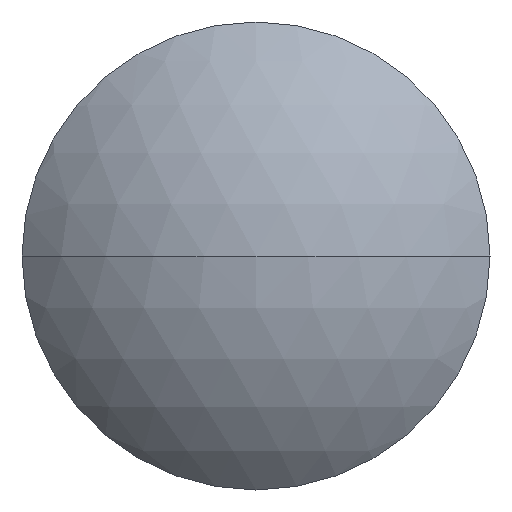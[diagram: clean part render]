
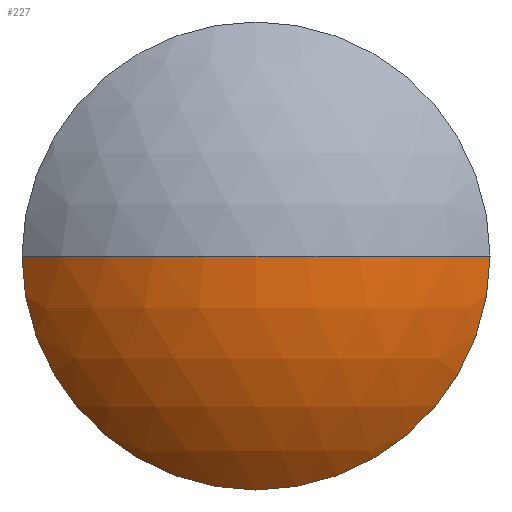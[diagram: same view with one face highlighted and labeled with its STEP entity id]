
A CAD part, left-side view. The second image highlights one B-rep face of the part: STEP entity #227.
In plain terms, the highlighted spherical face has radius 53.244 mm.
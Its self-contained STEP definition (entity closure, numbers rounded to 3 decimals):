
#2 = CARTESIAN_POINT ( 'NONE',  ( -3., -38.05, 0. ) ) ;
#3 = CIRCLE ( 'NONE', #76, 53.244 ) ;
#5 = DIRECTION ( 'NONE',  ( -1., 0., 0. ) ) ;
#13 = DIRECTION ( 'NONE',  ( 1., 0., 0. ) ) ;
#16 = ORIENTED_EDGE ( 'NONE', *, *, #139, .T. ) ;
#25 = CARTESIAN_POINT ( 'NONE',  ( -19., 0., 0. ) ) ;
#32 = CARTESIAN_POINT ( 'NONE',  ( -3., 0., 0. ) ) ;
#34 = CARTESIAN_POINT ( 'NONE',  ( 34.244, 0., 0. ) ) ;
#39 = FACE_OUTER_BOUND ( 'NONE', #203, .T. ) ;
#40 = DIRECTION ( 'NONE',  ( 0., 0., 1. ) ) ;
#41 = CARTESIAN_POINT ( 'NONE',  ( -3., 0., -38.05 ) ) ;
#64 = DIRECTION ( 'NONE',  ( 0., 1., 0. ) ) ;
#71 = ORIENTED_EDGE ( 'NONE', *, *, #108, .T. ) ;
#74 = DIRECTION ( 'NONE',  ( 0., 0., 1. ) ) ;
#76 = AXIS2_PLACEMENT_3D ( 'NONE', #197, #40, #13 ) ;
#79 = DIRECTION ( 'NONE',  ( 0., 1., 0. ) ) ;
#93 = VERTEX_POINT ( 'NONE', #25 ) ;
#96 = VERTEX_POINT ( 'NONE', #2 ) ;
#103 = CIRCLE ( 'NONE', #179, 38.05 ) ;
#107 = DIRECTION ( 'NONE',  ( 0., 0., 1. ) ) ;
#108 = EDGE_CURVE ( 'NONE', #297, #96, #205, .T. ) ;
#116 = EDGE_CURVE ( 'NONE', #96, #93, #239, .T. ) ;
#128 = DIRECTION ( 'NONE',  ( 0., 0., -1. ) ) ;
#139 = EDGE_CURVE ( 'NONE', #232, #297, #103, .T. ) ;
#141 = SPHERICAL_SURFACE ( 'NONE', #219, 53.244 ) ;
#168 = DIRECTION ( 'NONE',  ( 0., 0., -1. ) ) ;
#179 = AXIS2_PLACEMENT_3D ( 'NONE', #32, #5, #107 ) ;
#186 = AXIS2_PLACEMENT_3D ( 'NONE', #216, #279, #74 ) ;
#197 = CARTESIAN_POINT ( 'NONE',  ( 34.244, 0., 0. ) ) ;
#203 = EDGE_LOOP ( 'NONE', ( #16, #71, #295, #293 ) ) ;
#205 = CIRCLE ( 'NONE', #186, 38.05 ) ;
#208 = EDGE_CURVE ( 'NONE', #232, #93, #3, .T. ) ;
#216 = CARTESIAN_POINT ( 'NONE',  ( -3., 0., 0. ) ) ;
#219 = AXIS2_PLACEMENT_3D ( 'NONE', #34, #168, #64 ) ;
#227 = ADVANCED_FACE ( 'NONE', ( #39 ), #141, .T. ) ;
#232 = VERTEX_POINT ( 'NONE', #288 ) ;
#239 = CIRCLE ( 'NONE', #320, 53.244 ) ;
#279 = DIRECTION ( 'NONE',  ( -1., 0., 0. ) ) ;
#288 = CARTESIAN_POINT ( 'NONE',  ( -3., 38.05, 0. ) ) ;
#293 = ORIENTED_EDGE ( 'NONE', *, *, #208, .F. ) ;
#295 = ORIENTED_EDGE ( 'NONE', *, *, #116, .T. ) ;
#297 = VERTEX_POINT ( 'NONE', #41 ) ;
#320 = AXIS2_PLACEMENT_3D ( 'NONE', #327, #128, #79 ) ;
#327 = CARTESIAN_POINT ( 'NONE',  ( 34.244, 0., 0. ) ) ;
